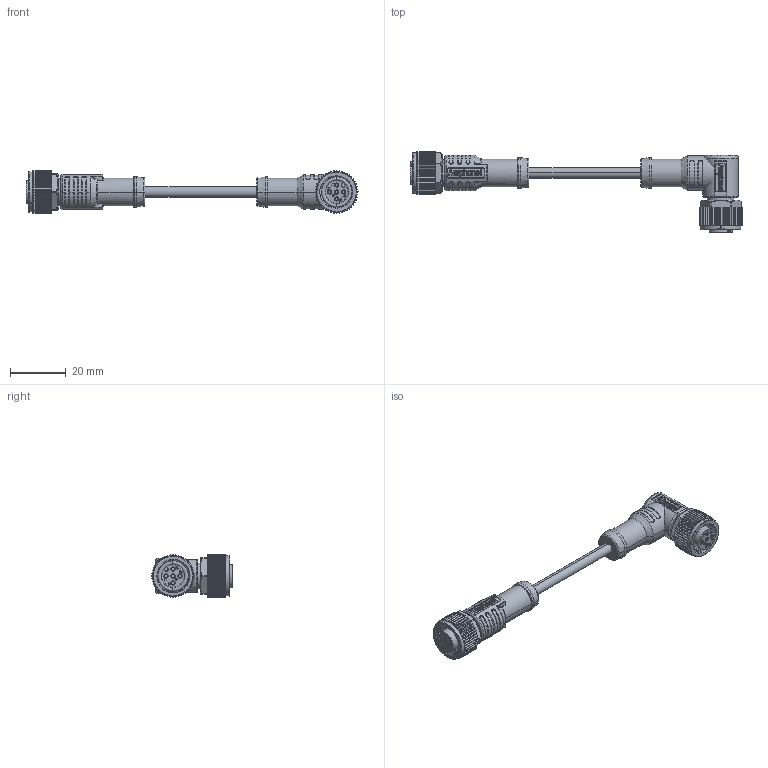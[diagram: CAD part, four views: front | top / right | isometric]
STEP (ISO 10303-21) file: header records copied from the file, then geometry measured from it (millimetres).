
FILE_DESCRIPTION((''),'2;1');
FILE_NAME('ASM_ASM','2019-09-26T',('L180083'),(''),'PRO/ENGINEER BY PARAMETRIC TECHNOLOGY CORPORATION, 2017170','PRO/ENGINEER BY PARAMETRIC TECHNOLOGY CORPORATION, 2017170','');
FILE_SCHEMA(('CONFIG_CONTROL_DESIGN'));
Products named in the file (4): MSAP-05BFFM-SL8000; CABLE_AF0; MSAP-05BFFM-SR8000; ASM_ASM
Assembly tree (3 placements, depth 2):
  ASM_ASM
    MSAP-05BFFM-SL8000
    CABLE_AF0
    MSAP-05BFFM-SR8000
Bounding box: 118.75 x 28.9 x 15.3 mm (x, y, z)
Volume: 10413.8 mm3; surface area: 6711.2 mm2
Topology: 3 solids, 3 shells, 1524 faces, 3987 edges, 2556 vertices
Faces by surface type: plane 673, cylinder 296, extrusion 208, bspline 164, torus 103, cone 48, sphere 32
Entity records: 90860 total; most frequent: CARTESIAN_POINT 43032, ORIENTED_EDGE 7974, DIRECTION 6717, EDGE_CURVE 3987, VERTEX_POINT 2556, VECTOR 2263, AXIS2_PLACEMENT_3D 2227, LINE 2055
